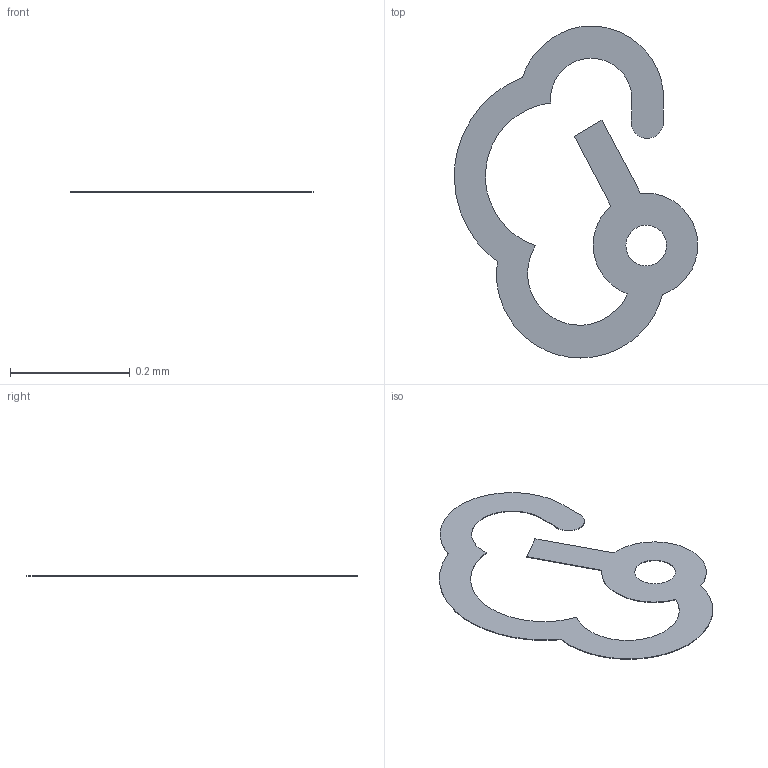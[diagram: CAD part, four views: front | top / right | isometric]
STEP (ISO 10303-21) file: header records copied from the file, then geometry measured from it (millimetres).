
FILE_DESCRIPTION(/* description */ ('STEP AP242 Edition 2','CAx-IF Rec.Pracs.---Representation and Presentation of Product Manufacturing Information (PMI)---4.0---2014-10-13','CAx-IF Rec.Pracs.---3D Tessellated Geometry---0.4---2014-09-14','2;1','CAx-IF Rec.Pracs.---User Defined Attributes---1.5---2016-08-15'),/* implementation_level */ '2;1');
FILE_NAME(/* name */ 'Assembly 1 - SOT-223_L6.5-W3.5-P2.30-LS7.0-BR~SOT-223-4P_L6.5-W3.5-H1.6-LS7.0-P2.30~nxQB (13)',/* time_stamp */ '2026-04-02T09:55:22Z',/* author */ (''),/* organization */ (''),/* preprocessor_version */ 'ST-DEVELOPER v20',/* originating_system */ 'ONSHAPE BY PTC INC, 1.212',/* authorisation */ ' ');
FILE_SCHEMA (('AP242_MANAGED_MODEL_BASED_3D_ENGINEERING_MIM_LF { 1 0 10303 442 3 1 4 }'));
Length unit declared in the file: metre
Products named in the file (1): SOT-223_L6.5-W3.5-P2.30-LS7.0-BR~SOT-223-4P_L6.5-W3.5-H1.6-LS7.0-P2.3
0~nxQB
Bounding box: 0.41 x 0.55 x 0 mm (x, y, z)
Volume: 0 mm3; surface area: 0.2 mm2
Topology: 1 solids, 1 shells, 37 faces, 105 edges, 70 vertices
Faces by surface type: bspline 28, plane 9
Entity records: 1653 total; most frequent: CARTESIAN_POINT 597, ORIENTED_EDGE 210, EDGE_CURVE 105, VERTEX_POINT 70, DIRECTION 69, B_SPLINE_CURVE_WITH_KNOTS 56, LINE 49, VECTOR 49
